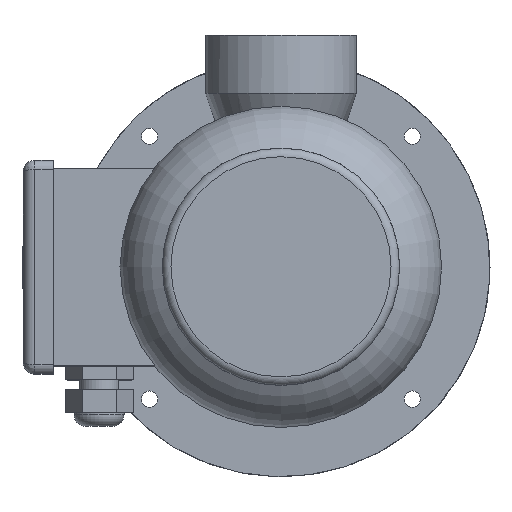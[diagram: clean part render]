
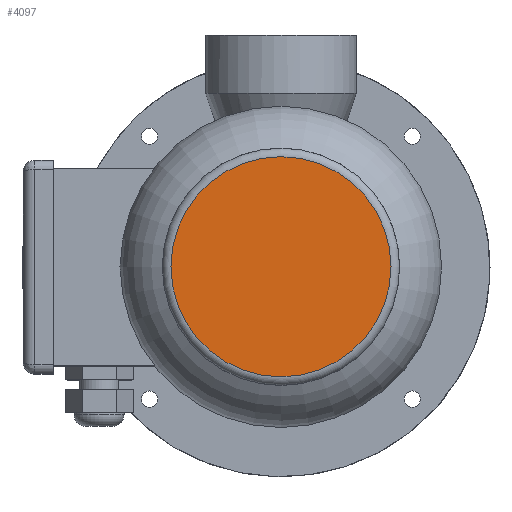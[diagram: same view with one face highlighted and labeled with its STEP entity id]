
A CAD part, top view. The second image highlights one B-rep face of the part: STEP entity #4097.
In plain terms, the highlighted planar face has unit normal (0, 0, 1).
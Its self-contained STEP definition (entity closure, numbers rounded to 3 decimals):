
#1167=ORIENTED_EDGE('',*,*,#2325,.F.);
#2325=EDGE_CURVE('',#2898,#2898,#3176,.T.);
#2898=VERTEX_POINT('',#7811);
#3176=CIRCLE('',#4458,47.382);
#3337=EDGE_LOOP('',(#1167));
#3692=FACE_BOUND('',#3337,.T.);
#3966=PLANE('',#4457);
#4097=ADVANCED_FACE('',(#3692),#3966,.F.);
#4457=AXIS2_PLACEMENT_3D('',#7809,#5010,#5011);
#4458=AXIS2_PLACEMENT_3D('',#7810,#5012,#5013);
#5010=DIRECTION('',(0.,0.,-1.));
#5011=DIRECTION('',(-1.,0.,0.));
#5012=DIRECTION('',(0.,0.,-1.));
#5013=DIRECTION('',(-1.,0.,0.));
#7809=CARTESIAN_POINT('',(0.,0.,426.962));
#7810=CARTESIAN_POINT('',(0.,0.,426.962));
#7811=CARTESIAN_POINT('',(-47.382,0.,426.962));
